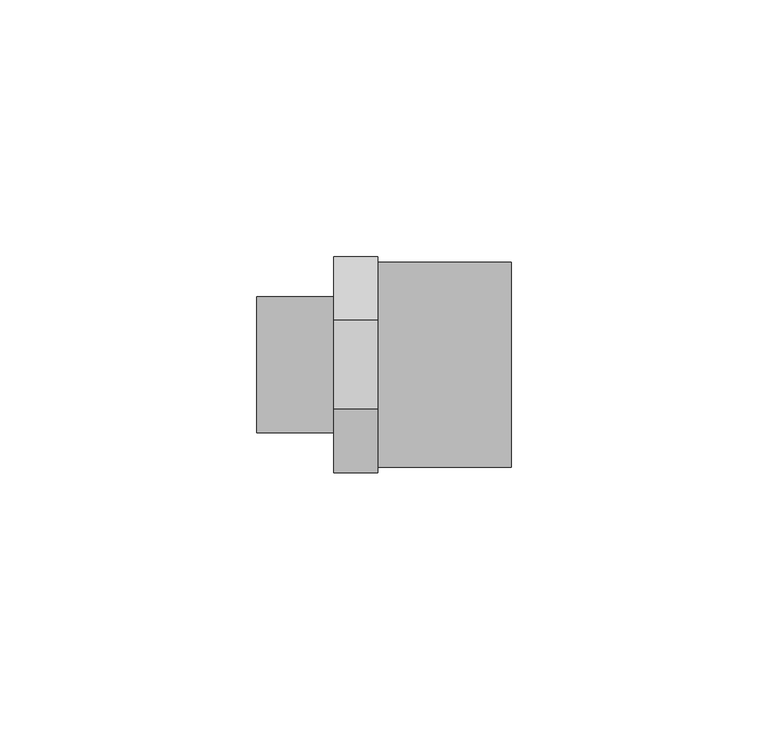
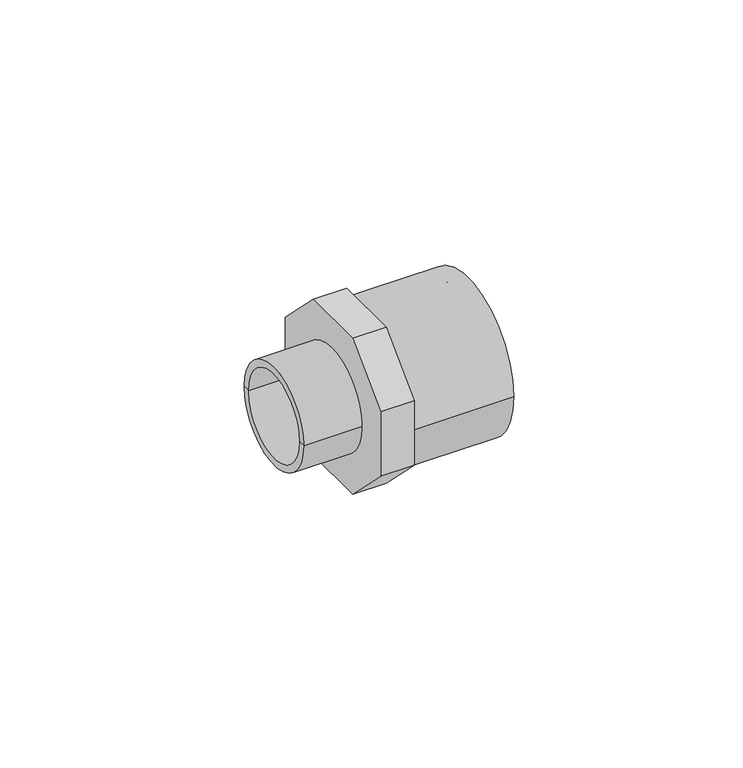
"""IFC4 building model written with IfcOpenShell, lengths in millimetres: pipe fitting geometry, Durapipe_PipeFitting_PVC_MaleThreadedAdaptors : 40 x 32 x G3⁄4."""

from ifc_helpers import new_model, si_unit, point, frame, origin, origin_2d, place, context, project, spatial, polyline, circle_curve, trimmed, segment, composite_curve, outline, extrude, source, transform, mapped, element, save
from ifc_brep_helpers import plane_surface, cylinder_surface, revolved_surface, advanced_brep


def pipe_fitting_306f539a(model_context):
    return source(origin(), model_context, "Body", "SolidModel", [
        extrude(outline(polyline([(21.0, 8.6984848), (21.0, -8.6984848), (8.6984848, -21.0), (-8.6984848, -21.0), (-21.0, -8.6984848), (-21.0, 8.6984848), (-8.6984848, 21.0), (8.6984848, 21.0), (21.0, 8.6984848)]), holes=[composite_curve([segment(trimmed(circle_curve(origin_2d(), 11.3), [point((11.3, 0.0))], [point((-11.3, 0.0))], True, "CARTESIAN"), True, "CONTINUOUS"), segment(trimmed(circle_curve(origin_2d(), 11.3), [point((-11.3, 0.0))], [point((11.3, 0.0))], True, "CARTESIAN"), True, "CONTINUOUS")], self_intersect=False)]), frame((-8.5, 0.0, 0.0), z_axis=(1.0, 0.0, 0.0), x_axis=(0.0, 1.0, 0.0)), (0.0, 0.0, 1.0), 8.5),
        advanced_brep(
        [(0.0, -20.0, 0.0), (0.0, 20.0, 0.0), (26.0, 20.0, 0.0), (26.0, -20.0, 0.0), (26.0, 16.0, 0.0), (26.0, -16.0, 0.0), (0.0, 0.0, 0.0), (4.0, 16.0, 0.0), (4.0, -16.0, 0.0), (4.0, 0.0, 0.0)],
        [
            (0, 1, circle_curve(frame((0.0, 0.0, 0.0), z_axis=(1.0, 0.0, 0.0), x_axis=(0.0, 1.0, 0.0)), 20.0)),
            (1, 2),
            (2, 3, circle_curve(frame((26.0, 0.0, 0.0), z_axis=(-1.0, 0.0, 0.0), x_axis=(0.0, 1.0, 0.0)), 20.0)),
            (3, 0),
            (1, 0, circle_curve(frame((0.0, 0.0, 0.0), z_axis=(1.0, 0.0, 0.0), x_axis=(0.0, 1.0, 0.0)), 20.0)),
            (3, 2, circle_curve(frame((26.0, 0.0, 0.0), z_axis=(-1.0, 0.0, 0.0), x_axis=(0.0, 1.0, 0.0)), 20.0)),
            (2, 4),
            (4, 5, circle_curve(frame((26.0, 0.0, 0.0), z_axis=(-1.0, 0.0, 0.0), x_axis=(0.0, 1.0, 0.0)), 16.0)),
            (5, 3),
            (5, 4, circle_curve(frame((26.0, 0.0, 0.0), z_axis=(-1.0, 0.0, 0.0), x_axis=(0.0, 1.0, 0.0)), 16.0)),
            (0, 6),
            (6, 1),
            (7, 8, circle_curve(frame((4.0, 0.0, 0.0), z_axis=(-1.0, 0.0, 0.0), x_axis=(0.0, 1.0, 0.0)), 16.0)),
            (8, 5),
            (4, 7),
            (8, 7, circle_curve(frame((4.0, 0.0, 0.0), z_axis=(-1.0, 0.0, 0.0), x_axis=(0.0, 1.0, 0.0)), 16.0)),
            (7, 9),
            (9, 8),
        ],
        [
            cylinder_surface(frame((427.4572068, 0.0, 0.0), z_axis=(-1.0, 0.0, 0.0), x_axis=(0.0, 1.0, 0.0)), 20.0),
            plane_surface(frame((26.0, 0.0, 0.0), z_axis=(1.0, 0.0, 0.0), x_axis=(0.0, 1.0, 0.0))),
            plane_surface(frame((0.0, 0.0, 0.0), z_axis=(-1.0, 0.0, 0.0), x_axis=(0.0, 1.0, 0.0))),
            revolved_surface(polyline([(4.0, 16.0, 0.0), (26.0, 16.0, 0.0)]), (39.5575137, 0.0, 0.0), (-1.0, 0.0, 0.0)),
            plane_surface(frame((4.0, 0.0, 0.0), z_axis=(1.0, 0.0, 0.0), x_axis=(0.0, 1.0, 0.0))),
        ],
        [
            (0, [[1, 2, 3, 4]]),
            (0, [[-2, 5, -4, 6]]),
            (1, [[-3, 7, 8, 9]]),
            (1, [[-6, -9, 10, -7]]),
            (2, [[-1, 11, 12]]),
            (2, [[-5, -12, -11]]),
            (3, [[13, 14, -8, 15]]),
            (3, [[16, -15, -10, -14]]),
            (4, [[-13, 17, 18]]),
            (4, [[-16, -18, -17]]),
        ],
    ),
        advanced_brep(
        [(-8.5, -11.3, 0.0), (-8.5, 11.3, 0.0), (-23.5, 11.3, 0.0), (-23.5, -11.3, 0.0), (-8.5, -13.2, 0.0), (-8.5, 13.2, 0.0), (-23.5, -13.2, 0.0), (-23.5, 13.2, 0.0)],
        [
            (0, 1, circle_curve(frame((-8.5, 0.0, 0.0), z_axis=(1.0, 0.0, 0.0), x_axis=(0.0, 1.0, 0.0)), 11.3)),
            (1, 2),
            (2, 3, circle_curve(frame((-23.5, 0.0, 0.0), z_axis=(-1.0, 0.0, 0.0), x_axis=(0.0, 1.0, 0.0)), 11.3)),
            (3, 0),
            (1, 0, circle_curve(frame((-8.5, 0.0, 0.0), z_axis=(1.0, 0.0, 0.0), x_axis=(0.0, 1.0, 0.0)), 11.3)),
            (3, 2, circle_curve(frame((-23.5, 0.0, 0.0), z_axis=(-1.0, 0.0, 0.0), x_axis=(0.0, 1.0, 0.0)), 11.3)),
            (4, 5, circle_curve(frame((-8.5, 0.0, 0.0), z_axis=(1.0, 0.0, 0.0), x_axis=(0.0, 1.0, 0.0)), 13.2)),
            (5, 1),
            (0, 4),
            (5, 4, circle_curve(frame((-8.5, 0.0, 0.0), z_axis=(1.0, 0.0, 0.0), x_axis=(0.0, 1.0, 0.0)), 13.2)),
            (6, 7, circle_curve(frame((-23.5, 0.0, 0.0), z_axis=(1.0, 0.0, 0.0), x_axis=(0.0, 1.0, 0.0)), 13.2)),
            (7, 5),
            (4, 6),
            (7, 6, circle_curve(frame((-23.5, 0.0, 0.0), z_axis=(1.0, 0.0, 0.0), x_axis=(0.0, 1.0, 0.0)), 13.2)),
            (2, 7),
            (6, 3),
        ],
        [
            revolved_surface(polyline([(-23.5, 11.3, 0.0), (-8.5, 11.3, 0.0)]), (-38.5, 0.0, 0.0), (-1.0, 0.0, 0.0)),
            plane_surface(frame((-8.5, 0.0, 0.0), z_axis=(1.0, 0.0, 0.0), x_axis=(0.0, 1.0, 0.0))),
            cylinder_surface(frame((-38.5, 0.0, 0.0), z_axis=(-1.0, 0.0, 0.0), x_axis=(0.0, 1.0, 0.0)), 13.2),
            plane_surface(frame((-23.5, 0.0, 0.0), z_axis=(-1.0, 0.0, 0.0), x_axis=(0.0, 1.0, 0.0))),
        ],
        [
            (0, [[1, 2, 3, 4]]),
            (0, [[5, -4, 6, -2]]),
            (1, [[7, 8, -1, 9]]),
            (1, [[10, -9, -5, -8]]),
            (2, [[11, 12, -7, 13]]),
            (2, [[14, -13, -10, -12]]),
            (3, [[-3, 15, -11, 16]]),
            (3, [[-6, -16, -14, -15]]),
        ],
    ),
    ])


if __name__ == "__main__":
    model = new_model("IFC4")
    model_context = context("Model", 3, world=origin())
    ifc_project = project(units=[si_unit("LENGTHUNIT", "METRE", prefix="MILLI")], contexts=[model_context])
    site = spatial("IfcSite", under=ifc_project)
    building = spatial("IfcBuilding", under=site)
    placement = place(None, origin())
    pipe_fitting_shape = pipe_fitting_306f539a(model_context)
    element("IfcPipeFitting", 1, ObjectType="Durapipe_PipeFitting_PVC_MaleThreadedAdaptors : 40 x 32 x G3⁄4", at=placement, inside=building, context=model_context, shape_type="MappedRepresentation", body=[
        mapped(pipe_fitting_shape, transform((0.0, 0.0, 0.0), x_axis=(1.0, 0.0, 0.0), y_axis=(0.0, 1.0, 0.0), z_axis=(0.0, 0.0, 1.0))),
    ])
    save(model, "model.ifc")
